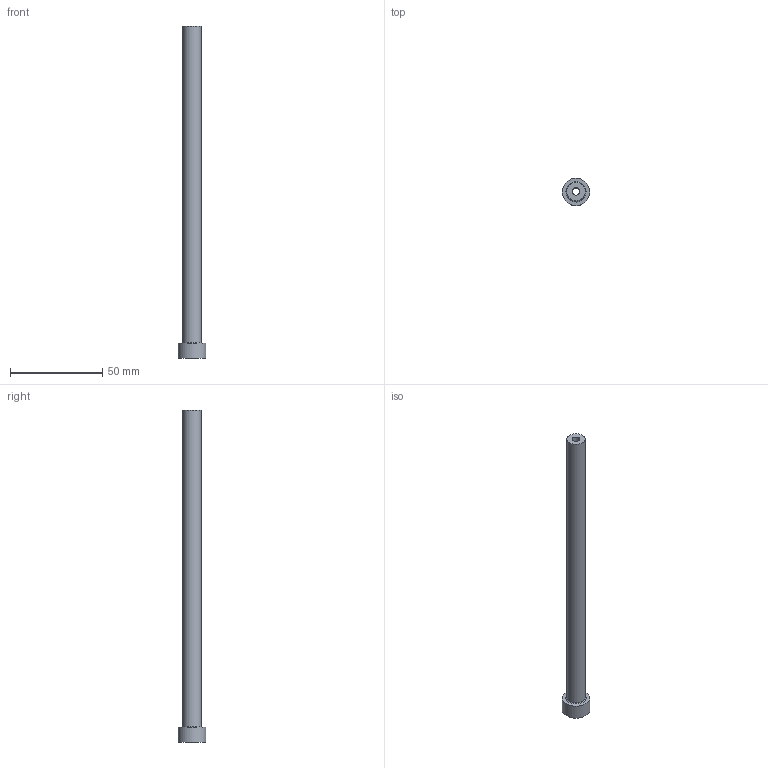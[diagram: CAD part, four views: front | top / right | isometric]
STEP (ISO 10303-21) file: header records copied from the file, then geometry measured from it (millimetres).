
FILE_DESCRIPTION (( 'STEP AP203' ), '1' );
FILE_NAME ('JES-4-10-180.STEP', '2017-06-24T18:16:29', ( '' ), ( '' ), 'SwSTEP 2.0', 'SolidWorks 2017', '' );
FILE_SCHEMA (( 'CONFIG_CONTROL_DESIGN' ));
Length unit declared in the file: millimetre
Products named in the file (1): JES-4-10-180
Bounding box: 15 x 15 x 180 mm (x, y, z)
Volume: 12310.7 mm3; surface area: 8522.5 mm2
Topology: 1 solids, 1 shells, 10 faces, 17 edges, 10 vertices
Faces by surface type: cylinder 4, plane 3, cone 2, torus 1
Full cylindrical faces by diameter (mm): 4 x1, 4.5 x1, 10 x1, 15 x1
Entity records: 285 total; most frequent: DIRECTION 42, CARTESIAN_POINT 31, AXIS2_PLACEMENT_3D 21, ORIENTED_EDGE 20, EDGE_LOOP 20, FACE_OUTER_BOUND 15, ADVANCED_FACE 10, VERTEX_POINT 10
